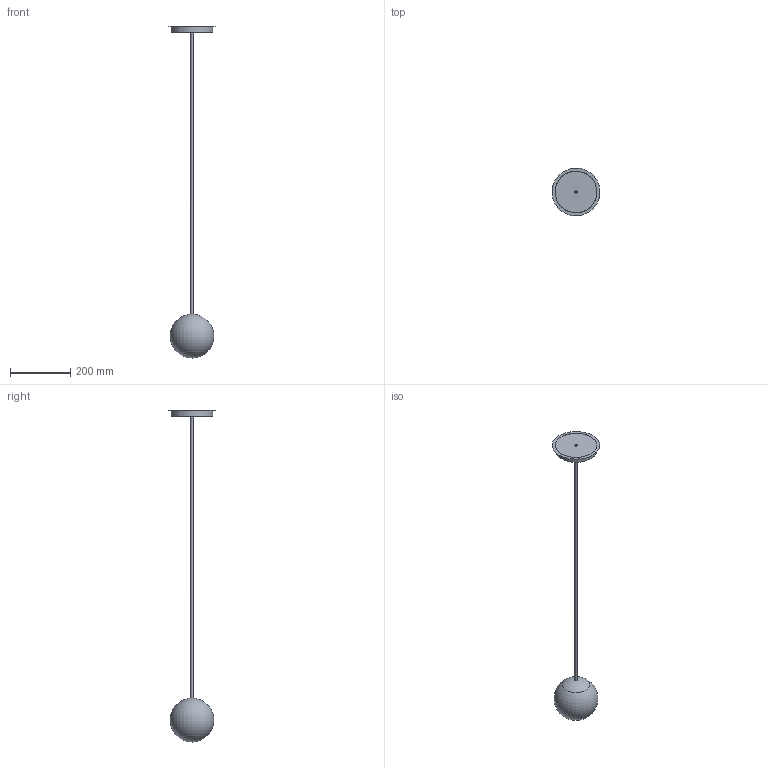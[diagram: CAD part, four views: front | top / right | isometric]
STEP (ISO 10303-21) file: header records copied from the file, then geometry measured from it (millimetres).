
FILE_DESCRIPTION(('STEP AP214'),'1');
FILE_NAME('Bacan_145.stp','2018-12-18T22:38:33',(' '),(' '),'Spatial InterOp 3D',' ',' ');
FILE_SCHEMA(('AUTOMOTIVE_DESIGN { 1 0 10303 214 1 1 1 1 }'));
Length unit declared in the file: millimetre
Products named in the file (1): Bry_a
Bounding box: 157.45 x 157.69 x 1098.85 mm (x, y, z)
Volume: 1894384 mm3; surface area: 157914.9 mm2
Topology: 3 solids, 6 shells, 14 faces, 40 edges, 32 vertices
Faces by surface type: bspline 14
Entity records: 5570 total; most frequent: CARTESIAN_POINT 5292, ORIENTED_EDGE 45, EDGE_CURVE 28, VERTEX_POINT 28, DIRECTION 24, EDGE_LOOP 23, B_SPLINE_CURVE_WITH_KNOTS 22, B_SPLINE_SURFACE_WITH_KNOTS 14
